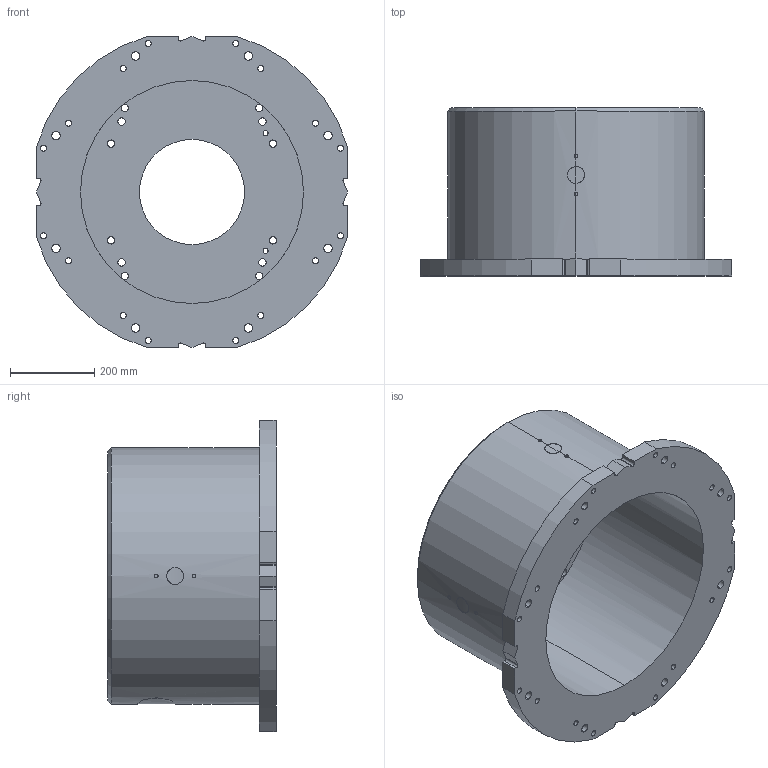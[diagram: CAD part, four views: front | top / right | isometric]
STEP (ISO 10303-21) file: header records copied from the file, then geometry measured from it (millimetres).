
FILE_DESCRIPTION (( 'STEP AP214' ), '1' );
FILE_NAME ('M-400.STEP', '2025-12-09T10:28:20', ( '' ), ( '' ), 'SwSTEP 2.0', 'SolidWorks 2022', '' );
FILE_SCHEMA (( 'AUTOMOTIVE_DESIGN' ));
Length unit declared in the file: millimetre
Products named in the file (1): M-400
Bounding box: 740 x 400 x 740 mm (x, y, z)
Volume: 41122177 mm3; surface area: 2290362.1 mm2
Topology: 1 solids, 1 shells, 194 faces, 540 edges, 356 vertices
Faces by surface type: cylinder 144, plane 28, bspline 16, cone 6
Entity records: 10731 total; most frequent: CARTESIAN_POINT 4761, ORIENTED_EDGE 1072, DIRECTION 1000, EDGE_CURVE 536, AXIS2_PLACEMENT_3D 393, VERTEX_POINT 356, EDGE_LOOP 284, CIRCLE 214
